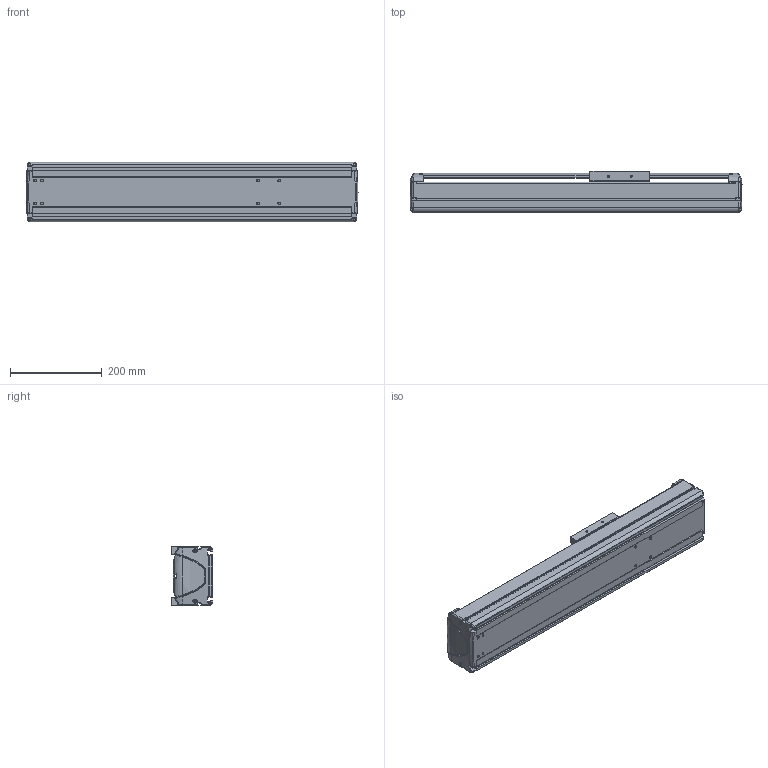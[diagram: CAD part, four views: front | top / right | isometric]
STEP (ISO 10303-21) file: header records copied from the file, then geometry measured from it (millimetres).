
FILE_DESCRIPTION((''),'2;1');
FILE_NAME('BE30E-ST-M_B-35_IGS_PRT','2017-06-17T',(' '),(''),'PRO/ENGINEER BY PARAMETRIC TECHNOLOGY CORPORATION, 2015030','PRO/ENGINEER BY PARAMETRIC TECHNOLOGY CORPORATION, 2015030','');
FILE_SCHEMA(('CONFIG_CONTROL_DESIGN'));
Length unit declared in the file: millimetre
Products named in the file (1): BE30E-ST-M_B-35_IGS_PRT
Bounding box: 725 x 89.8 x 130 mm (x, y, z)
Volume: 2481718.8 mm3; surface area: 900147.1 mm2
Topology: 2 solids, 68 shells, 1293 faces, 3447 edges, 2241 vertices
Faces by surface type: plane 596, cylinder 539, bspline 56, torus 46, cone 32, sphere 24
Entity records: 43129 total; most frequent: CARTESIAN_POINT 10843, DIRECTION 6646, ORIENTED_EDGE 6591, EDGE_CURVE 3427, AXIS2_PLACEMENT_3D 2371, VERTEX_POINT 2241, VECTOR 1904, LINE 1904
